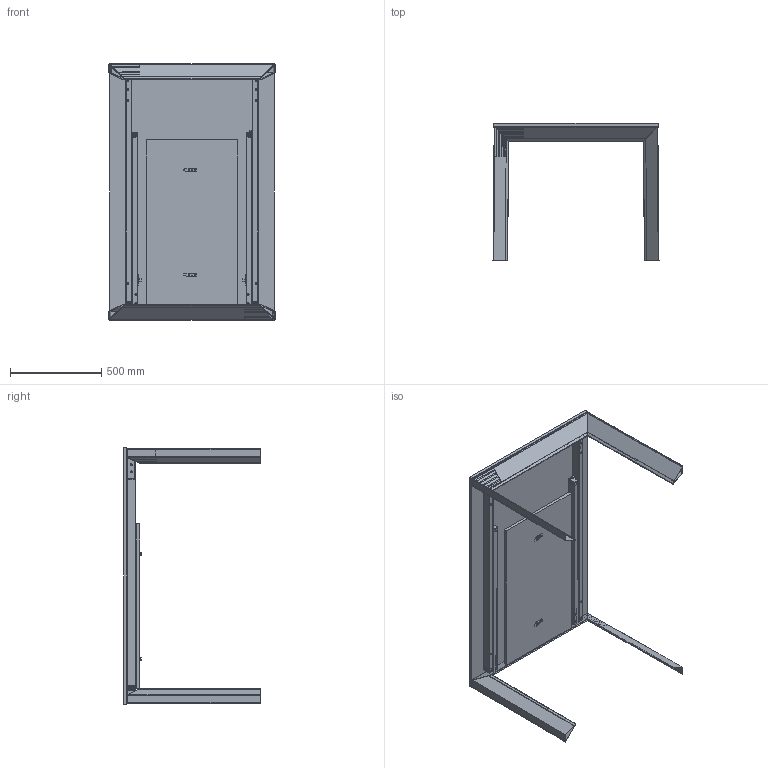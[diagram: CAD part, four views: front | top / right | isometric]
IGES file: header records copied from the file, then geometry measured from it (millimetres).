
Start section: SolidWorks IGES file using NURBS representation for surfaces
Global section: file name: R:\UFFICIO TECNICO\ARCHIVIO DISEGNI\3D\APOLLO.IGS; native system: SolidWorks 2011; preprocessor: SolidWorks 2011; author: Alberto; date: 140416.113315; units: millimetre
Bounding box: 907.74 x 748.67 x 1400 mm (x, y, z)
Surface area: 7230725.8 mm2 (no closed solid volume)
Topology: 0 solids, 0 shells, 1484 faces, 19824 edges, 19780 vertices
Faces by surface type: bspline 1484
